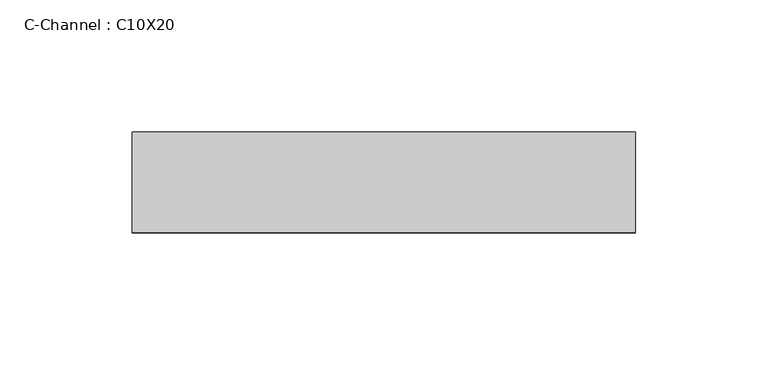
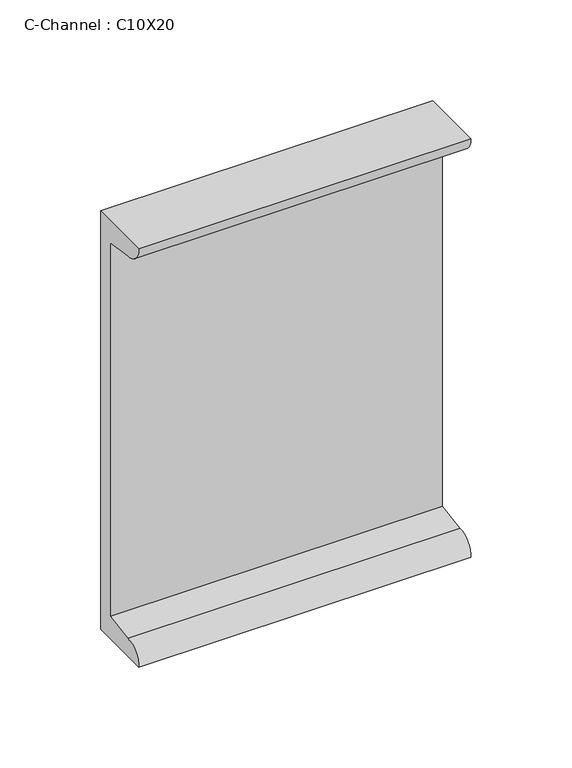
"""IFC4 building model written with IfcOpenShell, lengths in millimetres: beam geometry, C-Channel : C10X20."""

from ifc_helpers import new_model, si_unit, point, frame, frame_2d, origin, place, context, project, spatial, polyline, circle_curve, trimmed, segment, composite_curve, outline, extrude, source, transform, mapped, element, save


def c_channel_c10x20_05937fa8(model_context):
    return source(origin(), model_context, "Body", "SweptSolid", [
        extrude(outline(composite_curve([segment(polyline([(15.3924, 127.0), (15.3924, -127.0), (-22.7076, -127.0)]), True, "CONTINUOUS"), segment(trimmed(circle_curve(frame_2d((-11.6332, -127.0)), 11.0744), [point((-22.7076, -127.0))], [point((-11.6332, -115.9256))], False, "CARTESIAN"), True, "CONTINUOUS"), segment(polyline([(-11.6332, -115.9256), (5.7658, -113.1698691), (5.7658, 113.1698691), (-11.6332, 115.9256)]), True, "CONTINUOUS"), segment(trimmed(circle_curve(frame_2d((-11.6332, 127.0)), 11.0744), [point((-11.6332, 115.9256))], [point((-22.7076, 127.0))], False, "CARTESIAN"), True, "CONTINUOUS"), segment(polyline([(-22.7076, 127.0), (15.3924, 127.0)]), True, "CONTINUOUS")], self_intersect=False)), frame((-101.6000003, 0.0, 0.0), z_axis=(1.0, 0.0, 0.0), x_axis=(0.0, 1.0, 0.0)), (0.0, 0.0, 1.0), 190.5),
    ])


if __name__ == "__main__":
    model = new_model("IFC4")
    model_context = context("Model", 3, world=origin())
    ifc_project = project(units=[si_unit("LENGTHUNIT", "METRE", prefix="MILLI")], contexts=[model_context])
    site = spatial("IfcSite", under=ifc_project)
    building = spatial("IfcBuilding", under=site)
    placement = place(None, origin())
    c_channel_c10x20_shape = c_channel_c10x20_05937fa8(model_context)
    element("IfcBeam", 1, ObjectType="C-Channel : C10X20", at=placement, inside=building, context=model_context, shape_type="MappedRepresentation", body=[
        mapped(c_channel_c10x20_shape, transform((0.0, 0.0, 0.0), x_axis=(1.0, 0.0, 0.0), y_axis=(0.0, 1.0, 0.0), z_axis=(0.0, 0.0, 1.0))),
    ])
    save(model, "model.ifc")
